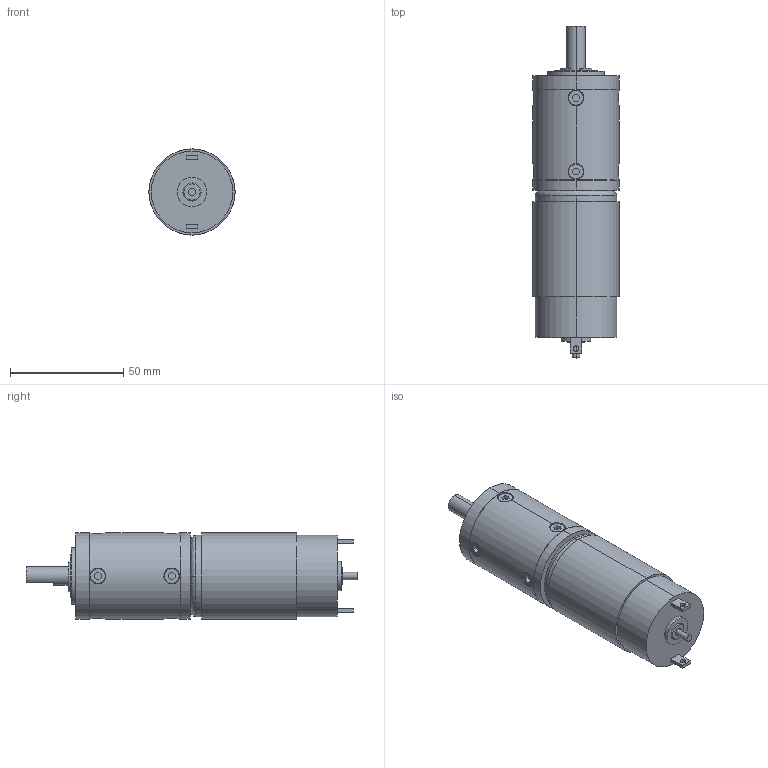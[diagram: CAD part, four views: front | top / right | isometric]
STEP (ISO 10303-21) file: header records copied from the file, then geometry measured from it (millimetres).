
FILE_DESCRIPTION((''),' ');
FILE_NAME('DSMP380_3.stp',' ',('R. Lindner'),('MSW GmbH'),' ','ACIS 14.0',' ');
FILE_SCHEMA(('automotive_design'));
Length unit declared in the file: inch
Products named in the file (175): DSMP380_3
Bounding box: 38 x 146.57 x 38 mm (x, y, z)
Surface area: 19080.3 mm2 (no closed solid volume)
Topology: 0 solids, 176 shells, 176 faces, 840 edges, 840 vertices
Faces by surface type: plane 98, cylinder 70, cone 6, bspline 2
Entity records: 15578 total; most frequent: CARTESIAN_POINT 3139, DIRECTION 1732, ORIENTED_EDGE 840, EDGE_CURVE 840, VERTEX_POINT 840, AXIS2_PLACEMENT_3D 593, LINE 546, VECTOR 546
